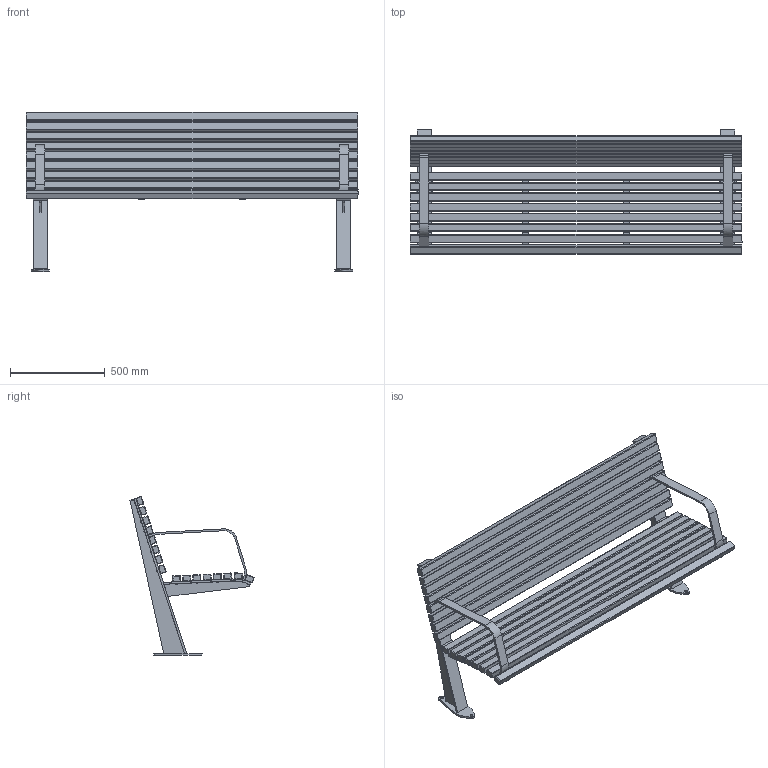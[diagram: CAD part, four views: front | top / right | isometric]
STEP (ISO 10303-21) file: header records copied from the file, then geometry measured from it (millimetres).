
FILE_DESCRIPTION(/* description */ (''),/* implementation_level */ '2;1');
FILE_NAME(/* name */ 'EDG01-A1_UAP_EDGE_Seat_3D',/* time_stamp */ '2018-01-23T16:13:28-05:00',/* author */ (''),/* organization */ (''),/* preprocessor_version */ 'ST-DEVELOPER v15',/* originating_system */ '',/* authorisation */ '');
FILE_SCHEMA (('AUTOMOTIVE_DESIGN'));
Products named in the file (1): Document
Bounding box: 1750 x 653.93 x 838.37 mm (x, y, z)
Volume: 42222188.6 mm3; surface area: 5278586 mm2
Topology: 98 solids, 98 shells, 2804 faces, 7376 edges, 4650 vertices
Faces by surface type: bspline 1950, plane 854
Entity records: 90856 total; most frequent: CARTESIAN_POINT 50738, ORIENTED_EDGE 14260, EDGE_CURVE 7130, VERTEX_POINT 4650, EDGE_LOOP 3068, ADVANCED_FACE 2804, FACE_OUTER_BOUND 2804, B_SPLINE_CURVE_WITH_KNOTS 1459
